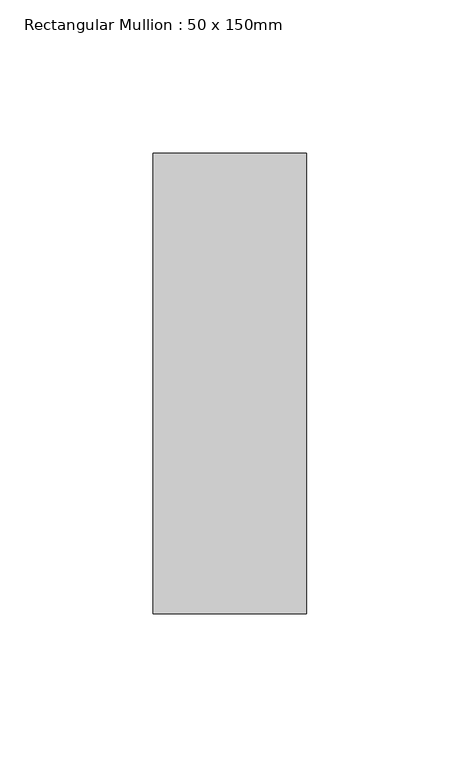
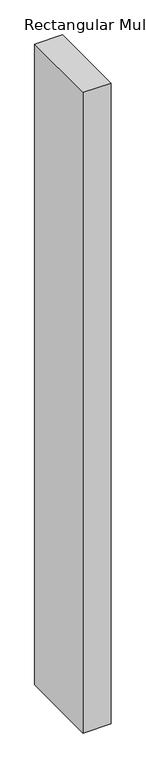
"""IFC4 building model written with IfcOpenShell, lengths in millimetres: member geometry, Rectangular Mullion : 50 x 150mm."""

from ifc_helpers import new_model, si_unit, frame, origin, place, context, project, spatial, polyline, outline, extrude, source, transform, mapped, element, save


def rectangular_mullion_50_x_150mm_a0b78ac3(model_context):
    return source(origin(), model_context, "Body", "SweptSolid", [
        extrude(outline(polyline([(0.0, 75.0), (0.0, -75.0), (-50.0, -75.0), (-50.0, 75.0), (0.0, 75.0)])), frame((0.0, 0.0, -1212.0), z_axis=(0.0, 0.0, 1.0), x_axis=(1.0, 0.0, 0.0)), (0.0, 0.0, 1.0), 1212.0),
    ])


if __name__ == "__main__":
    model = new_model("IFC4")
    model_context = context("Model", 3, world=origin())
    ifc_project = project(units=[si_unit("LENGTHUNIT", "METRE", prefix="MILLI")], contexts=[model_context])
    site = spatial("IfcSite", under=ifc_project)
    building = spatial("IfcBuilding", under=site)
    placement = place(None, origin())
    rectangular_mullion_50_x_150mm_shape = rectangular_mullion_50_x_150mm_a0b78ac3(model_context)
    element("IfcMember", 1, ObjectType="Rectangular Mullion : 50 x 150mm", at=placement, inside=building, context=model_context, shape_type="MappedRepresentation", body=[
        mapped(rectangular_mullion_50_x_150mm_shape, transform((0.0, 0.0, 0.0), x_axis=(1.0, 0.0, 0.0), y_axis=(0.0, 1.0, 0.0), z_axis=(0.0, 0.0, 1.0))),
    ])
    save(model, "model.ifc")
